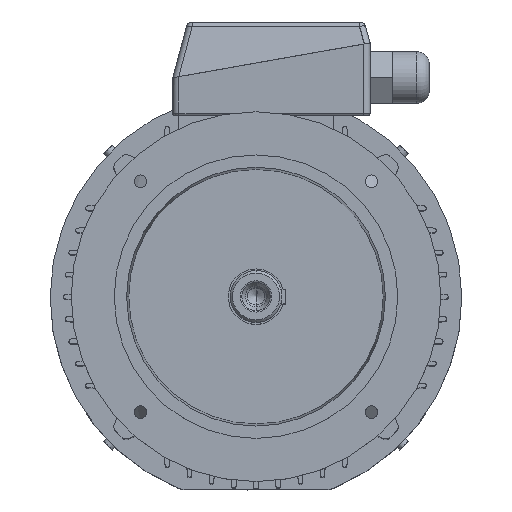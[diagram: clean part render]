
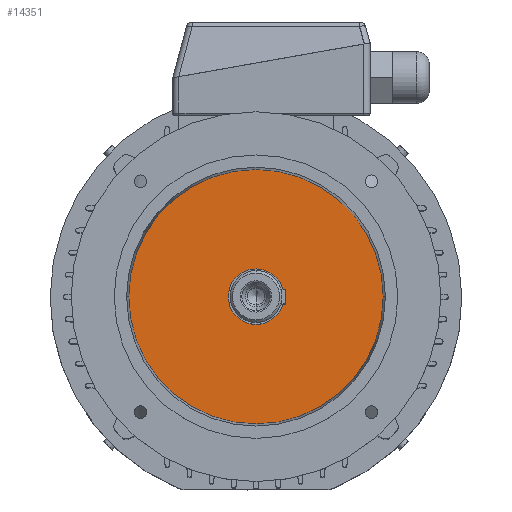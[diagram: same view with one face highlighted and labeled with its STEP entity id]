
A CAD part, top view. The second image highlights one B-rep face of the part: STEP entity #14351.
In plain terms, the highlighted planar face has unit normal (0, 0, 1).
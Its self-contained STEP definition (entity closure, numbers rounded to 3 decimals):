
#499 = VERTEX_POINT ( 'NONE', #9033 ) ;
#651 = CIRCLE ( 'NONE', #652, 22.5 ) ;
#652 = AXIS2_PLACEMENT_3D ( 'NONE', #653, #654, #660 ) ;
#653 = CARTESIAN_POINT ( 'NONE',  ( 0., 0., 59. ) ) ;
#654 = DIRECTION ( 'NONE',  ( 0., 0., 1. ) ) ;
#660 = DIRECTION ( 'NONE',  ( 1., 0., 0. ) ) ;
#737 = EDGE_CURVE ( 'NONE', #8514, #499, #11080, .T. ) ;
#887 = EDGE_CURVE ( 'NONE', #8790, #8896, #11175, .T. ) ;
#1754 = FACE_BOUND ( 'NONE', #14084, .T. ) ;
#1755 = FACE_OUTER_BOUND ( 'NONE', #12276, .T. ) ;
#1760 = PLANE ( 'NONE',  #1761 ) ;
#1761 = AXIS2_PLACEMENT_3D ( 'NONE', #1762, #1763, #1764 ) ;
#1762 = CARTESIAN_POINT ( 'NONE',  ( 0., 115., 59. ) ) ;
#1763 = DIRECTION ( 'NONE',  ( 0., 0., 1. ) ) ;
#1764 = DIRECTION ( 'NONE',  ( 1., 0., 0. ) ) ;
#4427 = CARTESIAN_POINT ( 'NONE',  ( 0., -22.5, 59. ) ) ;
#5264 = CARTESIAN_POINT ( 'NONE',  ( 103.25, 0., 59. ) ) ;
#5360 = CARTESIAN_POINT ( 'NONE',  ( -103.25, 0., 59. ) ) ;
#5498 = CIRCLE ( 'NONE', #5499, 103.25 ) ;
#5499 = AXIS2_PLACEMENT_3D ( 'NONE', #5500, #5501, #5502 ) ;
#5500 = CARTESIAN_POINT ( 'NONE',  ( 0., 0., 59. ) ) ;
#5501 = DIRECTION ( 'NONE',  ( 0., 0., 1. ) ) ;
#5502 = DIRECTION ( 'NONE',  ( 1., 0., 0. ) ) ;
#8514 = VERTEX_POINT ( 'NONE', #4427 ) ;
#8790 = VERTEX_POINT ( 'NONE', #5264 ) ;
#8896 = VERTEX_POINT ( 'NONE', #5360 ) ;
#9033 = CARTESIAN_POINT ( 'NONE',  ( 0., 22.5, 59. ) ) ;
#9149 = EDGE_CURVE ( 'NONE', #8896, #8790, #5498, .T. ) ;
#11080 = CIRCLE ( 'NONE', #11081, 22.5 ) ;
#11081 = AXIS2_PLACEMENT_3D ( 'NONE', #11082, #11087, #11088 ) ;
#11082 = CARTESIAN_POINT ( 'NONE',  ( 0., 0., 59. ) ) ;
#11087 = DIRECTION ( 'NONE',  ( 0., 0., 1. ) ) ;
#11088 = DIRECTION ( 'NONE',  ( 1., 0., 0. ) ) ;
#11125 = ORIENTED_EDGE ( 'NONE', *, *, #9149, .T. ) ;
#11175 = CIRCLE ( 'NONE', #11176, 103.25 ) ;
#11176 = AXIS2_PLACEMENT_3D ( 'NONE', #11177, #11178, #11179 ) ;
#11177 = CARTESIAN_POINT ( 'NONE',  ( 0., 0., 59. ) ) ;
#11178 = DIRECTION ( 'NONE',  ( 0., 0., 1. ) ) ;
#11179 = DIRECTION ( 'NONE',  ( 1., 0., 0. ) ) ;
#11699 = ORIENTED_EDGE ( 'NONE', *, *, #887, .T. ) ;
#12276 = EDGE_LOOP ( 'NONE', ( #11699, #11125 ) ) ;
#12540 = ORIENTED_EDGE ( 'NONE', *, *, #737, .F. ) ;
#13115 = EDGE_CURVE ( 'NONE', #499, #8514, #651, .T. ) ;
#13522 = ORIENTED_EDGE ( 'NONE', *, *, #13115, .F. ) ;
#14084 = EDGE_LOOP ( 'NONE', ( #13522, #12540 ) ) ;
#14351 = ADVANCED_FACE ( 'NONE', ( #1754, #1755 ), #1760, .T. ) ;
